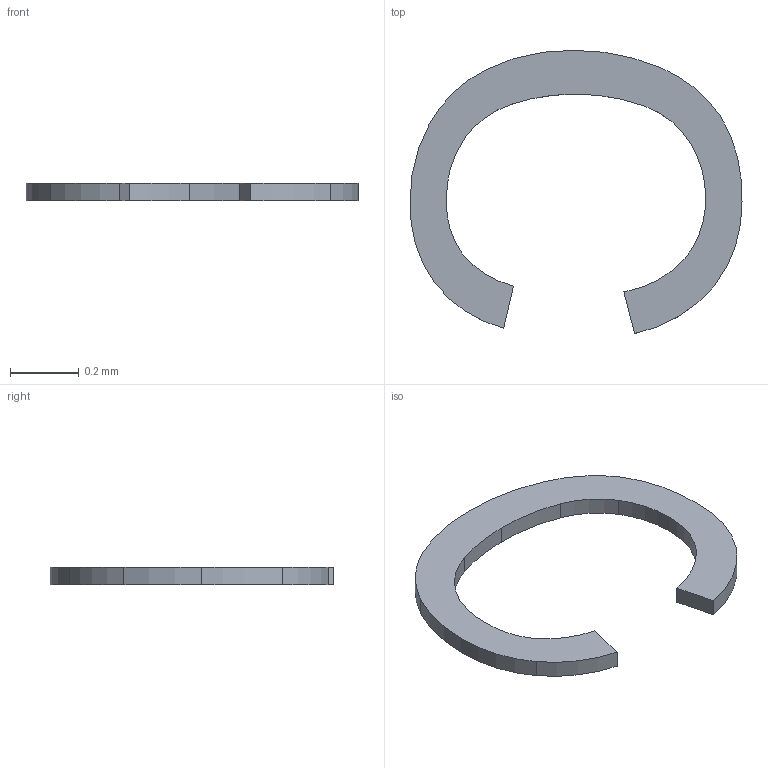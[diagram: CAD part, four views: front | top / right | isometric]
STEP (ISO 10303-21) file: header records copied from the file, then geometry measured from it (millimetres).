
FILE_DESCRIPTION(/* description */ ('STEP AP242 Edition 2','CAx-IF Rec.Pracs.---Representation and Presentation of Product Manufacturing Information (PMI)---4.0---2014-10-13','CAx-IF Rec.Pracs.---3D Tessellated Geometry---0.4---2014-09-14','2;1','CAx-IF Rec.Pracs.---User Defined Attributes---1.5---2016-08-15'),/* implementation_level */ '2;1');
FILE_NAME(/* name */ 'Drone Layout - Surface 325',/* time_stamp */ '2026-10-04T22:22:56Z',/* author */ (''),/* organization */ (''),/* preprocessor_version */ 'ST-DEVELOPER v20',/* originating_system */ 'ONSHAPE BY PTC INC, 1.221',/* authorisation */ ' ');
FILE_SCHEMA (('AP242_MANAGED_MODEL_BASED_3D_ENGINEERING_MIM_LF { 1 0 10303 442 3 1 4 }'));
Length unit declared in the file: metre
Products named in the file (1): Text_VCC
Bounding box: 0.97 x 0.83 x 0.05 mm (x, y, z)
Volume: 0 mm3; surface area: 0.7 mm2
Topology: 1 solids, 1 shells, 24 faces, 66 edges, 44 vertices
Faces by surface type: cylinder 20, plane 4
Entity records: 820 total; most frequent: CARTESIAN_POINT 186, DIRECTION 139, ORIENTED_EDGE 132, EDGE_CURVE 66, AXIS2_PLACEMENT_3D 65, VERTEX_POINT 44, CIRCLE 40, EDGE_LOOP 24
